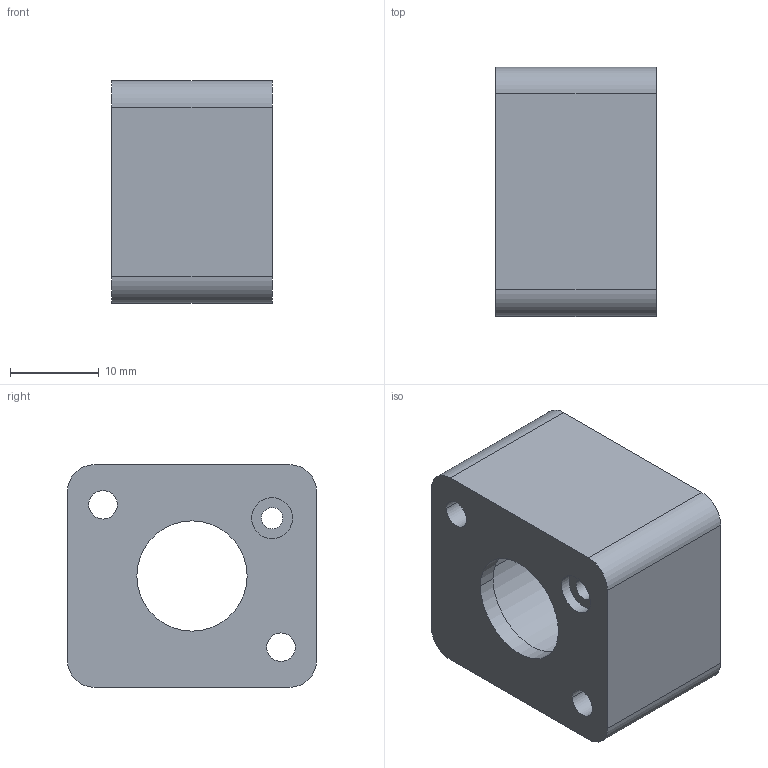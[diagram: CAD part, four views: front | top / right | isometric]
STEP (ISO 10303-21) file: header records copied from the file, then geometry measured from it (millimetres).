
FILE_DESCRIPTION(('CATIA V5 STEP Exchange'),'2;1');
FILE_NAME('F:\1.项目开发\22.集成式智能空簧\集成空簧方案设计\方案B-140直径\JCKH-07侧盖-20211123.stp','2021-11-23T05:31:52+00:00',('none'),('none'),'CATIA Version 5 Release 20 GA (IN-10)','CATIA V5 STEP AP214','none');
FILE_SCHEMA(('AUTOMOTIVE_DESIGN { 1 0 10303 214 1 1 1 1 }'));
Length unit declared in the file: millimetre
Products named in the file (1): JCKH-07
Bounding box: 18 x 28 x 25 mm (x, y, z)
Volume: 8814.9 mm3; surface area: 4280 mm2
Topology: 1 solids, 1 shells, 24 faces, 60 edges, 40 vertices
Faces by surface type: cylinder 16, plane 8
Entity records: 732 total; most frequent: CARTESIAN_POINT 123, ORIENTED_EDGE 120, DIRECTION 104, EDGE_CURVE 60, AXIS2_PLACEMENT_3D 55, VERTEX_POINT 40, EDGE_LOOP 34, CIRCLE 32
